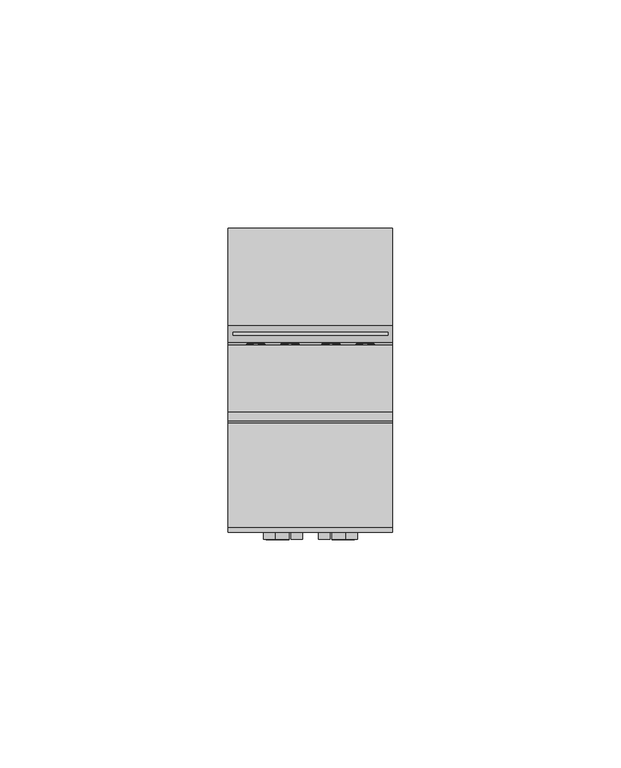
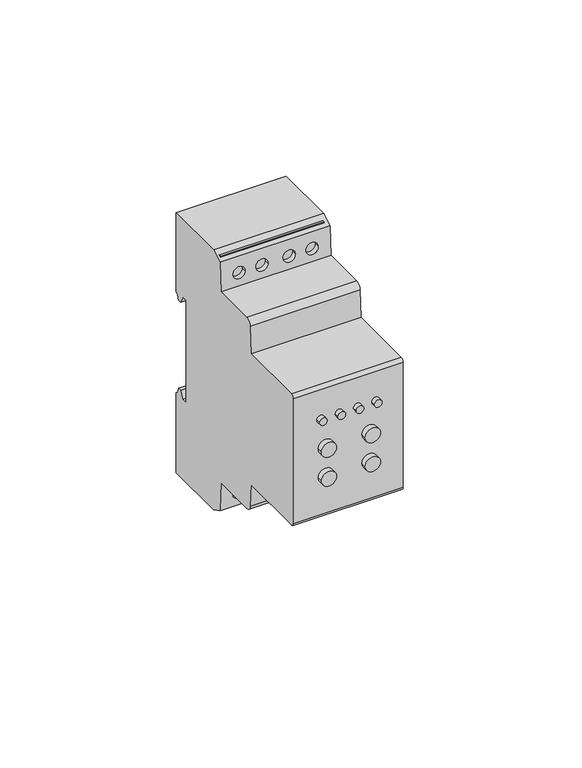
"""IFC4 building model written with IfcOpenShell, lengths in millimetres: proxy geometry, TDM_РЕЛЕ КОНТРОЛЯ НАПРЯЖЕНИЯ СЕРИИ РН 02_04_05_08_10_11 : РН 04-3х400/230 В."""

from ifc_helpers import new_model, si_unit, point, frame, frame_2d, origin, place, context, project, spatial, polyline, circle_curve, ellipse_curve, trimmed, segment, composite_curve, outline, extrude, source, transform, mapped, element, save
from ifc_brep_helpers import plane_surface, cylinder_surface, revolved_surface, advanced_brep


def electrical_equipment_52fcec72(model_context):
    return source(origin(), model_context, "Body", "SolidModel", [
        extrude(outline(composite_curve([segment(trimmed(circle_curve(frame_2d((10.7391856, -3.0)), 1.25), [point((10.7391856, -4.25))], [point((10.7391856, -1.75))], False, "CARTESIAN"), True, "CONTINUOUS"), segment(trimmed(circle_curve(frame_2d((10.7391856, -3.0)), 1.25), [point((10.7391856, -1.75))], [point((10.7391856, -4.25))], False, "CARTESIAN"), True, "CONTINUOUS")], self_intersect=False)), frame((0.0, -30.5593993, 0.0), z_axis=(0.0, 1.0, 0.0), x_axis=(0.0, 0.0, 1.0)), (0.0, 0.0, 1.0), 1.5593993),
        extrude(outline(composite_curve([segment(trimmed(circle_curve(frame_2d((10.7391856, -9.0)), 1.25), [point((10.7391856, -10.25))], [point((10.7391856, -7.75))], False, "CARTESIAN"), True, "CONTINUOUS"), segment(trimmed(circle_curve(frame_2d((10.7391856, -9.0)), 1.25), [point((10.7391856, -7.75))], [point((10.7391856, -10.25))], False, "CARTESIAN"), True, "CONTINUOUS")], self_intersect=False)), frame((0.0, -30.5593993, 0.0), z_axis=(0.0, 1.0, 0.0), x_axis=(0.0, 0.0, 1.0)), (0.0, 0.0, 1.0), 1.5593993),
        extrude(outline(composite_curve([segment(trimmed(circle_curve(frame_2d((10.7391856, 3.0)), 1.25), [point((10.7391856, 4.25))], [point((10.7391856, 1.75))], False, "CARTESIAN"), True, "CONTINUOUS"), segment(trimmed(circle_curve(frame_2d((10.7391856, 3.0)), 1.25), [point((10.7391856, 1.75))], [point((10.7391856, 4.25))], False, "CARTESIAN"), True, "CONTINUOUS")], self_intersect=False)), frame((0.0, -30.5593993, 0.0), z_axis=(0.0, 1.0, 0.0), x_axis=(0.0, 0.0, 1.0)), (0.0, 0.0, 1.0), 1.5593993),
        extrude(outline(composite_curve([segment(trimmed(circle_curve(frame_2d((10.7391856, 9.0)), 1.25), [point((10.7391856, 10.25))], [point((10.7391856, 7.75))], False, "CARTESIAN"), True, "CONTINUOUS"), segment(trimmed(circle_curve(frame_2d((10.7391856, 9.0)), 1.25), [point((10.7391856, 7.75))], [point((10.7391856, 10.25))], False, "CARTESIAN"), True, "CONTINUOUS")], self_intersect=False)), frame((0.0, -30.5593993, 0.0), z_axis=(0.0, 1.0, 0.0), x_axis=(0.0, 0.0, 1.0)), (0.0, 0.0, 1.0), 1.5593993),
        extrude(outline(composite_curve([segment(trimmed(circle_curve(frame_2d((0.3743959, -7.1875)), 2.5), [point((0.3743959, -9.6875))], [point((0.3743959, -4.6875))], False, "CARTESIAN"), True, "CONTINUOUS"), segment(trimmed(circle_curve(frame_2d((0.3743959, -7.1875)), 2.5), [point((0.3743959, -4.6875))], [point((0.3743959, -9.6875))], False, "CARTESIAN"), True, "CONTINUOUS")], self_intersect=False)), frame((0.0, -30.5593993, 0.0), z_axis=(0.0, 1.0, 0.0), x_axis=(0.0, 0.0, 1.0)), (0.0, 0.0, 1.0), 3.0593993),
        extrude(outline(composite_curve([segment(trimmed(circle_curve(frame_2d((-9.6256041, -7.1875)), 2.5), [point((-9.6256041, -9.6875))], [point((-9.6256041, -4.6875))], False, "CARTESIAN"), True, "CONTINUOUS"), segment(trimmed(circle_curve(frame_2d((-9.6256041, -7.1875)), 2.5), [point((-9.6256041, -4.6875))], [point((-9.6256041, -9.6875))], False, "CARTESIAN"), True, "CONTINUOUS")], self_intersect=False)), frame((0.0, -30.5593993, 0.0), z_axis=(0.0, 1.0, 0.0), x_axis=(0.0, 0.0, 1.0)), (0.0, 0.0, 1.0), 3.0593993),
        extrude(outline(composite_curve([segment(trimmed(circle_curve(frame_2d((0.3743959, 7.1875)), 2.5), [point((0.3743959, 9.6875))], [point((0.3743959, 4.6875))], False, "CARTESIAN"), True, "CONTINUOUS"), segment(trimmed(circle_curve(frame_2d((0.3743959, 7.1875)), 2.5), [point((0.3743959, 4.6875))], [point((0.3743959, 9.6875))], False, "CARTESIAN"), True, "CONTINUOUS")], self_intersect=False)), frame((0.0, -30.5593993, 0.0), z_axis=(0.0, 1.0, 0.0), x_axis=(0.0, 0.0, 1.0)), (0.0, 0.0, 1.0), 3.0593993),
        extrude(outline(composite_curve([segment(trimmed(circle_curve(frame_2d((-9.6256041, 7.1875)), 2.5), [point((-9.6256041, 9.6875))], [point((-9.6256041, 4.6875))], False, "CARTESIAN"), True, "CONTINUOUS"), segment(trimmed(circle_curve(frame_2d((-9.6256041, 7.1875)), 2.5), [point((-9.6256041, 4.6875))], [point((-9.6256041, 9.6875))], False, "CARTESIAN"), True, "CONTINUOUS")], self_intersect=False)), frame((0.0, -30.5593993, 0.0), z_axis=(0.0, 1.0, 0.0), x_axis=(0.0, 0.0, 1.0)), (0.0, 0.0, 1.0), 3.0593993),
        extrude(outline(polyline([(17.0, 16.6821204), (17.0, 14.1138713), (-17.0, 14.1138713), (-17.0, 16.6821204), (17.0, 16.6821204)])), frame((0.0, 0.0, -44.0625), z_axis=(0.0, 0.0, 1.0), x_axis=(1.0, 0.0, 0.0)), (0.0, 0.0, 1.0), 87.8126081),
        advanced_brep(
        [(18.0, 31.7632568, 18.2057143), (18.0, 33.4745816, 18.2057143), (18.0, 35.0790621, 15.4266726), (18.0, 36.2042493, 15.4266726), (18.0, 36.5256071, 17.2491835), (18.0, 37.5, 17.8117495), (18.0, 37.5, 45.0), (18.0, 16.2660628, 45.0), (18.0, 12.5, 43.0), (18.0, 11.9790691, 33.0600462), (18.0, -2.6020709, 33.0600462), (18.0, -4.5993299, 31.1647181), (18.0, -5.0796325, 22.0), (18.0, -27.8777313, 22.0), (18.0, -29.0, 20.8777313), (18.0, -29.0, -22.3875602), (18.0, -27.8875602, -23.5), (18.0, -5.0010208, -23.5), (18.0, -4.5993299, -31.1647181), (18.0, -2.6020709, -33.0600462), (18.0, 11.9790691, -33.0600462), (18.0, 12.5, -43.0), (18.0, 16.2660628, -45.0), (18.0, 37.5, -45.0), (18.0, 37.5, -17.4003208), (18.0, 36.5256071, -16.8377548), (18.0, 36.2042493, -15.0152439), (18.0, 35.0790621, -15.0152439), (18.0, 33.7632568, -17.2942857), (18.0, 31.7632568, -17.2942857), (-18.0, 31.7632568, 18.2057143), (-18.0, 31.7632568, -17.2942857), (-18.0, 33.7632568, -17.2942857), (-18.0, 35.0790621, -15.0152439), (-18.0, 36.2042493, -15.0152439), (-18.0, 36.5256071, -16.8377548), (-18.0, 37.5, -17.4003208), (-18.0, 37.5, -45.0), (-18.0, 16.2660628, -45.0), (-18.0, 12.5, -43.0), (-18.0, 11.9790691, -33.0600462), (-18.0, -2.6020709, -33.0600462), (-18.0, -4.5993299, -31.1647181), (-18.0, -5.0010208, -23.5), (-18.0, -27.8875602, -23.5), (-18.0, -29.0, -22.3875602), (-18.0, -29.0, 20.8777313), (-18.0, -27.8777313, 22.0), (-18.0, -5.0796325, 22.0), (-18.0, -4.5993299, 31.1647181), (-18.0, -2.6020709, 33.0600462), (-18.0, 11.9790691, 33.0600462), (-18.0, 12.5, 43.0), (-18.0, 16.2660628, 45.0), (-18.0, 37.5, 45.0), (-18.0, 37.5, 17.8117495), (-18.0, 36.5256071, 17.2491835), (-18.0, 36.2042493, 15.4266726), (-18.0, 35.0790621, 15.4266726), (-18.0, 33.4745816, 18.2057143), (-6.4760987, 12.2085347, 37.4385116), (-2.4760987, 12.2085347, 37.4385116), (-13.9760987, 12.2085347, 37.4385116), (-9.9760987, 12.2085347, 37.4385116), (6.4760987, 12.2085347, 37.4385116), (2.4760987, 12.2085347, 37.4385116), (13.9760987, 12.2085347, 37.4385116), (9.9760987, 12.2085347, 37.4385116), (-6.4760987, 12.2740445, -38.6885116), (-2.4760987, 12.2740445, -38.6885116), (-13.9760987, 12.2740445, -38.6885116), (-9.9760987, 12.2740445, -38.6885116), (6.4760987, 12.2740445, -38.6885116), (2.4760987, 12.2740445, -38.6885116), (13.9760987, 12.2740445, -38.6885116), (9.9760987, 12.2740445, -38.6885116), (-2.4760987, 15.2465164, -38.6885116), (-6.4760987, 15.2465164, -38.6885116), (-2.4760987, 15.2465164, 37.4385116), (-6.4760987, 15.2465164, 37.4385116), (-9.9760987, 15.2465164, -38.6885116), (-13.9760987, 15.2465164, -38.6885116), (-9.9760987, 15.2465164, 37.4385116), (-13.9760987, 15.2465164, 37.4385116), (2.4760987, 15.2465164, -38.6885116), (6.4760987, 15.2465164, -38.6885116), (2.4760987, 15.2465164, 37.4385116), (6.4760987, 15.2465164, 37.4385116), (9.9760987, 15.2465164, -38.6885116), (13.9760987, 15.2465164, -38.6885116), (9.9760987, 15.2465164, 37.4385116), (13.9760987, 15.2465164, 37.4385116)],
        [
            (0, 1),
            (1, 2),
            (2, 3),
            (3, 4),
            (4, 5),
            (5, 6),
            (6, 7),
            (7, 8),
            (8, 9),
            (9, 10),
            (10, 11, circle_curve(frame((18.0, -2.6020709, 31.0600462), z_axis=(1.0, 0.0, 0.0), x_axis=(0.0, -1.0, 0.0)), 2.0)),
            (11, 12),
            (12, 13),
            (13, 14, circle_curve(frame((18.0, -27.8777313, 20.8777313), z_axis=(1.0, 0.0, 0.0), x_axis=(0.0, -1.0, 0.0)), 1.1222687)),
            (14, 15),
            (15, 16, circle_curve(frame((18.0, -27.8875602, -22.3875602), z_axis=(1.0, 0.0, 0.0), x_axis=(0.0, -1.0, 0.0)), 1.1124398)),
            (16, 17),
            (17, 18),
            (18, 19, circle_curve(frame((18.0, -2.6020709, -31.0600462), z_axis=(1.0, 0.0, 0.0), x_axis=(0.0, -1.0, 0.0)), 2.0)),
            (19, 20),
            (20, 21),
            (21, 22),
            (22, 23),
            (23, 24),
            (24, 25),
            (25, 26),
            (26, 27),
            (27, 28),
            (28, 29),
            (29, 0),
            (30, 31),
            (31, 32),
            (32, 33),
            (33, 34),
            (34, 35),
            (35, 36),
            (36, 37),
            (37, 38),
            (38, 39),
            (39, 40),
            (40, 41),
            (41, 42, circle_curve(frame((-18.0, -2.6020709, -31.0600462), z_axis=(-1.0, 0.0, 0.0), x_axis=(0.0, -1.0, 0.0)), 2.0)),
            (42, 43),
            (43, 44),
            (44, 45, circle_curve(frame((-18.0, -27.8875602, -22.3875602), z_axis=(-1.0, 0.0, 0.0), x_axis=(0.0, -1.0, 0.0)), 1.1124398)),
            (45, 46),
            (46, 47, circle_curve(frame((-18.0, -27.8777313, 20.8777313), z_axis=(-1.0, 0.0, 0.0), x_axis=(0.0, -1.0, 0.0)), 1.1222687)),
            (47, 48),
            (48, 49),
            (49, 50, circle_curve(frame((-18.0, -2.6020709, 31.0600462), z_axis=(-1.0, 0.0, 0.0), x_axis=(0.0, -1.0, 0.0)), 2.0)),
            (50, 51),
            (51, 52),
            (52, 53),
            (53, 54),
            (54, 55),
            (55, 56),
            (56, 57),
            (57, 58),
            (58, 59),
            (59, 30),
            (0, 30),
            (59, 1),
            (58, 2),
            (57, 3),
            (56, 4),
            (55, 5),
            (54, 6),
            (53, 7),
            (8, 52),
            (51, 9),
            (60, 61, ellipse_curve(frame((-4.4760987, 12.2085347, 37.4385116), z_axis=(0.0, 0.9986295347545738, -0.05233595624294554), x_axis=(0.0, -0.052335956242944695, -0.9986295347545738)), 2.0027447, 2.0)),
            (61, 60, ellipse_curve(frame((-4.4760987, 12.2085347, 37.4385116), z_axis=(0.0, 0.9986295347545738, -0.05233595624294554), x_axis=(0.0, -0.052335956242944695, -0.9986295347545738)), 2.0027447, 2.0)),
            (62, 63, ellipse_curve(frame((-11.9760987, 12.2085347, 37.4385116), z_axis=(0.0, 0.9986295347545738, -0.05233595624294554), x_axis=(0.0, -0.052335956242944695, -0.9986295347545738)), 2.0027447, 2.0)),
            (63, 62, ellipse_curve(frame((-11.9760987, 12.2085347, 37.4385116), z_axis=(0.0, 0.9986295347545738, -0.05233595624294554), x_axis=(0.0, -0.052335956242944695, -0.9986295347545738)), 2.0027447, 2.0)),
            (64, 65, ellipse_curve(frame((4.4760987, 12.2085347, 37.4385116), z_axis=(0.0, 0.9986295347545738, -0.05233595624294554), x_axis=(0.0, -0.052335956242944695, -0.9986295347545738)), 2.0027447, 2.0)),
            (65, 64, ellipse_curve(frame((4.4760987, 12.2085347, 37.4385116), z_axis=(0.0, 0.9986295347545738, -0.05233595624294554), x_axis=(0.0, -0.052335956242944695, -0.9986295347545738)), 2.0027447, 2.0)),
            (66, 67, ellipse_curve(frame((11.9760987, 12.2085347, 37.4385116), z_axis=(0.0, 0.9986295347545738, -0.05233595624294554), x_axis=(0.0, -0.052335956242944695, -0.9986295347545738)), 2.0027447, 2.0)),
            (67, 66, ellipse_curve(frame((11.9760987, 12.2085347, 37.4385116), z_axis=(0.0, 0.9986295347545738, -0.05233595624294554), x_axis=(0.0, -0.052335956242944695, -0.9986295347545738)), 2.0027447, 2.0)),
            (50, 10),
            (49, 11),
            (48, 12),
            (47, 13),
            (46, 14),
            (45, 15),
            (16, 44),
            (43, 17),
            (42, 18),
            (41, 19),
            (40, 20),
            (39, 21),
            (68, 69, ellipse_curve(frame((-4.4760987, 12.2740445, -38.6885116), z_axis=(0.0, 0.9986295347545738, 0.05233595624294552), x_axis=(0.0, -0.05233595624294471, 0.9986295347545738)), 2.0027447, 2.0)),
            (69, 68, ellipse_curve(frame((-4.4760987, 12.2740445, -38.6885116), z_axis=(0.0, 0.9986295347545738, 0.05233595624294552), x_axis=(0.0, -0.05233595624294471, 0.9986295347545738)), 2.0027447, 2.0)),
            (70, 71, ellipse_curve(frame((-11.9760987, 12.2740445, -38.6885116), z_axis=(0.0, 0.9986295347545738, 0.05233595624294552), x_axis=(0.0, -0.05233595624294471, 0.9986295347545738)), 2.0027447, 2.0)),
            (71, 70, ellipse_curve(frame((-11.9760987, 12.2740445, -38.6885116), z_axis=(0.0, 0.9986295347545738, 0.05233595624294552), x_axis=(0.0, -0.05233595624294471, 0.9986295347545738)), 2.0027447, 2.0)),
            (72, 73, ellipse_curve(frame((4.4760987, 12.2740445, -38.6885116), z_axis=(0.0, 0.9986295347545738, 0.05233595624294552), x_axis=(0.0, -0.05233595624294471, 0.9986295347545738)), 2.0027447, 2.0)),
            (73, 72, ellipse_curve(frame((4.4760987, 12.2740445, -38.6885116), z_axis=(0.0, 0.9986295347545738, 0.05233595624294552), x_axis=(0.0, -0.05233595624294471, 0.9986295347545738)), 2.0027447, 2.0)),
            (74, 75, ellipse_curve(frame((11.9760987, 12.2740445, -38.6885116), z_axis=(0.0, 0.9986295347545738, 0.05233595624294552), x_axis=(0.0, -0.05233595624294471, 0.9986295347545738)), 2.0027447, 2.0)),
            (75, 74, ellipse_curve(frame((11.9760987, 12.2740445, -38.6885116), z_axis=(0.0, 0.9986295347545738, 0.05233595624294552), x_axis=(0.0, -0.05233595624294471, 0.9986295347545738)), 2.0027447, 2.0)),
            (22, 38),
            (37, 23),
            (36, 24),
            (35, 25),
            (34, 26),
            (33, 27),
            (32, 28),
            (31, 29),
            (76, 77, circle_curve(frame((-4.4760987, 15.2465164, -38.6885116), z_axis=(0.0, -1.0, 0.0), x_axis=(-1.0, 0.0, 0.0)), 2.0)),
            (77, 76, circle_curve(frame((-4.4760987, 15.2465164, -38.6885116), z_axis=(0.0, -1.0, 0.0), x_axis=(-1.0, 0.0, 0.0)), 2.0)),
            (78, 79, circle_curve(frame((-4.4760987, 15.2465164, 37.4385116), z_axis=(0.0, -1.0, 0.0), x_axis=(-1.0, 0.0, 0.0)), 2.0)),
            (79, 78, circle_curve(frame((-4.4760987, 15.2465164, 37.4385116), z_axis=(0.0, -1.0, 0.0), x_axis=(-1.0, 0.0, 0.0)), 2.0)),
            (80, 81, circle_curve(frame((-11.9760987, 15.2465164, -38.6885116), z_axis=(0.0, -1.0, 0.0), x_axis=(-1.0, 0.0, 0.0)), 2.0)),
            (81, 80, circle_curve(frame((-11.9760987, 15.2465164, -38.6885116), z_axis=(0.0, -1.0, 0.0), x_axis=(-1.0, 0.0, 0.0)), 2.0)),
            (82, 83, circle_curve(frame((-11.9760987, 15.2465164, 37.4385116), z_axis=(0.0, -1.0, 0.0), x_axis=(-1.0, 0.0, 0.0)), 2.0)),
            (83, 82, circle_curve(frame((-11.9760987, 15.2465164, 37.4385116), z_axis=(0.0, -1.0, 0.0), x_axis=(-1.0, 0.0, 0.0)), 2.0)),
            (84, 85, circle_curve(frame((4.4760987, 15.2465164, -38.6885116), z_axis=(0.0, -1.0, 0.0), x_axis=(1.0, 0.0, 0.0)), 2.0)),
            (85, 84, circle_curve(frame((4.4760987, 15.2465164, -38.6885116), z_axis=(0.0, -1.0, 0.0), x_axis=(1.0, 0.0, 0.0)), 2.0)),
            (86, 87, circle_curve(frame((4.4760987, 15.2465164, 37.4385116), z_axis=(0.0, -1.0, 0.0), x_axis=(1.0, 0.0, 0.0)), 2.0)),
            (87, 86, circle_curve(frame((4.4760987, 15.2465164, 37.4385116), z_axis=(0.0, -1.0, 0.0), x_axis=(1.0, 0.0, 0.0)), 2.0)),
            (88, 89, circle_curve(frame((11.9760987, 15.2465164, -38.6885116), z_axis=(0.0, -1.0, 0.0), x_axis=(1.0, 0.0, 0.0)), 2.0)),
            (89, 88, circle_curve(frame((11.9760987, 15.2465164, -38.6885116), z_axis=(0.0, -1.0, 0.0), x_axis=(1.0, 0.0, 0.0)), 2.0)),
            (90, 91, circle_curve(frame((11.9760987, 15.2465164, 37.4385116), z_axis=(0.0, -1.0, 0.0), x_axis=(1.0, 0.0, 0.0)), 2.0)),
            (91, 90, circle_curve(frame((11.9760987, 15.2465164, 37.4385116), z_axis=(0.0, -1.0, 0.0), x_axis=(1.0, 0.0, 0.0)), 2.0)),
            (76, 69),
            (68, 77),
            (78, 61),
            (60, 79),
            (80, 71),
            (70, 81),
            (82, 63),
            (62, 83),
            (84, 73),
            (72, 85),
            (86, 65),
            (64, 87),
            (88, 75),
            (74, 89),
            (90, 67),
            (66, 91),
        ],
        [
            plane_surface(frame((18.0, 31.7632568, 18.2057143), z_axis=(1.0, 0.0, 0.0), x_axis=(0.0, 1.0, 0.0))),
            plane_surface(frame((-18.0, 31.7632568, 18.2057143), z_axis=(-1.0, 0.0, 0.0), x_axis=(0.0, -1.0, 0.0))),
            plane_surface(frame((18.0, 31.7632568, 18.2057143), z_axis=(0.0, 0.0, -1.0), x_axis=(-1.0, 0.0, 0.0))),
            plane_surface(frame((18.0, 33.4745816, 18.2057143), z_axis=(0.0, -0.8660254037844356, -0.5000000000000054), x_axis=(-1.0, 0.0, 0.0))),
            plane_surface(frame((18.0, 35.0790621, 15.4266726), z_axis=(0.0, 0.0, -1.0), x_axis=(-1.0, 0.0, 0.0))),
            plane_surface(frame((18.0, 36.2042493, 15.4266726), z_axis=(0.0, 0.984807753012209, -0.17364817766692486), x_axis=(-1.0, 0.0, 0.0))),
            plane_surface(frame((18.0, 36.5256071, 17.2491835), z_axis=(0.0, 0.5000000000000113, -0.8660254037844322), x_axis=(-1.0, 0.0, 0.0))),
            plane_surface(frame((18.0, 37.5, 17.8117495), z_axis=(0.0, 1.0, 0.0), x_axis=(-1.0, 0.0, 0.0))),
            plane_surface(frame((18.0, 37.5, 45.0), z_axis=(0.0, 0.0, 1.0), x_axis=(-1.0, 0.0, 0.0))),
            plane_surface(frame((18.0, 12.5, 43.0), z_axis=(0.0, -0.9986295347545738, 0.05233595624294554), x_axis=(-1.0, 0.0, 0.0))),
            plane_surface(frame((18.0, 11.9790691, 33.0600462), z_axis=(0.0, 0.0, 1.0), x_axis=(-1.0, 0.0, 0.0))),
            cylinder_surface(frame((-18.0, -2.6020709, 31.0600462), z_axis=(1.0, 0.0, 0.0), x_axis=(0.0, -1.0, 0.0)), 2.0),
            plane_surface(frame((18.0, -4.5993299, 31.1647181), z_axis=(0.0, -0.9986295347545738, 0.052335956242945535), x_axis=(-1.0, 0.0, 0.0))),
            plane_surface(frame((18.0, -5.0796325, 22.0), z_axis=(0.0, 0.0, 1.0), x_axis=(-1.0, 0.0, 0.0))),
            cylinder_surface(frame((-18.0, -27.8777313, 20.8777313), z_axis=(1.0, 0.0, 0.0), x_axis=(0.0, -1.0, 0.0)), 1.1222687),
            plane_surface(frame((18.0, -29.0, 20.8777313), z_axis=(0.0, -1.0, 0.0), x_axis=(-1.0, 0.0, 0.0))),
            plane_surface(frame((18.0, -27.8875602, -23.5), z_axis=(0.0, 0.0, -1.0), x_axis=(-1.0, 0.0, 0.0))),
            plane_surface(frame((18.0, -5.0010208, -23.5), z_axis=(0.0, -0.9986295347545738, -0.05233595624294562), x_axis=(-1.0, 0.0, 0.0))),
            cylinder_surface(frame((-18.0, -2.6020709, -31.0600462), z_axis=(1.0, 0.0, 0.0), x_axis=(0.0, -1.0, 0.0)), 2.0),
            plane_surface(frame((18.0, -2.6020709, -33.0600462), z_axis=(0.0, 0.0, -1.0), x_axis=(-1.0, 0.0, 0.0))),
            plane_surface(frame((18.0, 11.9790691, -33.0600462), z_axis=(0.0, -0.9986295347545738, -0.05233595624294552), x_axis=(-1.0, 0.0, 0.0))),
            plane_surface(frame((18.0, 16.2660628, -45.0), z_axis=(0.0, 0.0, -1.0), x_axis=(-1.0, 0.0, 0.0))),
            plane_surface(frame((18.0, 37.5, -45.0), z_axis=(0.0, 1.0, 0.0), x_axis=(-1.0, 0.0, 0.0))),
            plane_surface(frame((18.0, 37.5, -17.4003208), z_axis=(0.0, 0.5000000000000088, 0.8660254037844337), x_axis=(-1.0, 0.0, 0.0))),
            plane_surface(frame((18.0, 36.5256071, -16.8377548), z_axis=(0.0, 0.9848077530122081, 0.17364817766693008), x_axis=(-1.0, 0.0, 0.0))),
            plane_surface(frame((18.0, 36.2042493, -15.0152439), z_axis=(0.0, 0.0, 1.0), x_axis=(-1.0, 0.0, 0.0))),
            plane_surface(frame((18.0, 35.0790621, -15.0152439), z_axis=(0.0, -0.8660254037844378, 0.5000000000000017), x_axis=(-1.0, 0.0, 0.0))),
            plane_surface(frame((18.0, 33.7632568, -17.2942857), z_axis=(0.0, 0.0, 1.0), x_axis=(-1.0, 0.0, 0.0))),
            plane_surface(frame((18.0, 31.7632568, -17.2942857), z_axis=(0.0, 1.0, 0.0), x_axis=(-1.0, 0.0, 0.0))),
            cylinder_surface(frame((-18.0, -27.8875602, -22.3875602), z_axis=(1.0, 0.0, 0.0), x_axis=(0.0, -1.0, 0.0)), 1.1124398),
            plane_surface(frame((-6.4760987, 15.2465164, -38.6885116), z_axis=(0.0, -1.0, 0.0), x_axis=(0.0, 0.0, 1.0))),
            revolved_surface(polyline([(-6.4760987, 12.16922894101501, -38.6885116), (-6.4760987, 15.2465164, -38.6885116)]), (-4.4760987, 15.2465164, -38.6885116), (0.0, -1.0, 0.0)),
            revolved_surface(polyline([(-6.4760987, 12.10371914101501, 37.4385116), (-6.4760987, 15.2465164, 37.4385116)]), (-4.4760987, 0.0, 37.4385116), (0.0, -1.0, 0.0)),
            plane_surface(frame((18.0, 16.2660628, 45.0), z_axis=(0.0, -0.4690233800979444, 0.8831857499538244), x_axis=(-1.0, 0.0, 0.0))),
            plane_surface(frame((18.0, 12.5, -43.0), z_axis=(0.0, -0.4690233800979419, -0.8831857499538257), x_axis=(-1.0, 0.0, 0.0))),
            revolved_surface(polyline([(-13.9760987, 12.16922894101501, -38.6885116), (-13.9760987, 15.2465164, -38.6885116)]), (-11.9760987, 0.0, -38.6885116), (0.0, -1.0, 0.0)),
            revolved_surface(polyline([(-13.9760987, 12.10371914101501, 37.4385116), (-13.9760987, 15.2465164, 37.4385116)]), (-11.9760987, 0.0, 37.4385116), (0.0, -1.0, 0.0)),
            revolved_surface(polyline([(6.4760987, 12.16922894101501, -38.6885116), (6.4760987, 15.2465164, -38.6885116)]), (4.4760987, 0.0, -38.6885116), (0.0, -1.0, 0.0)),
            revolved_surface(polyline([(6.4760987, 12.10371914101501, 37.4385116), (6.4760987, 15.2465164, 37.4385116)]), (4.4760987, 0.0, 37.4385116), (0.0, -1.0, 0.0)),
            revolved_surface(polyline([(13.9760987, 12.16922894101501, -38.6885116), (13.9760987, 15.2465164, -38.6885116)]), (11.9760987, 0.0, -38.6885116), (0.0, -1.0, 0.0)),
            revolved_surface(polyline([(13.9760987, 12.10371914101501, 37.4385116), (13.9760987, 15.2465164, 37.4385116)]), (11.9760987, 0.0, 37.4385116), (0.0, -1.0, 0.0)),
        ],
        [
            (0, [[1, 2, 3, 4, 5, 6, 7, 8, 9, 10, 11, 12, 13, 14, 15, 16, 17, 18, 19, 20, 21, 22, 23, 24, 25, 26, 27, 28, 29, 30]]),
            (1, [[31, 32, 33, 34, 35, 36, 37, 38, 39, 40, 41, 42, 43, 44, 45, 46, 47, 48, 49, 50, 51, 52, 53, 54, 55, 56, 57, 58, 59, 60]]),
            (2, [[-1, 61, -60, 62]]),
            (3, [[-2, -62, -59, 63]]),
            (4, [[-3, -63, -58, 64]]),
            (5, [[-4, -64, -57, 65]]),
            (6, [[-5, -65, -56, 66]]),
            (7, [[-6, -66, -55, 67]]),
            (8, [[-7, -67, -54, 68]]),
            (9, [[-9, 69, -52, 70], [71, 72], [73, 74], [75, 76], [77, 78]]),
            (10, [[-10, -70, -51, 79]]),
            (11, [[-11, -79, -50, 80]]),
            (12, [[-12, -80, -49, 81]]),
            (13, [[-13, -81, -48, 82]]),
            (14, [[-14, -82, -47, 83]]),
            (15, [[-15, -83, -46, 84]]),
            (16, [[-17, 85, -44, 86]]),
            (17, [[-18, -86, -43, 87]]),
            (18, [[-19, -87, -42, 88]]),
            (19, [[-20, -88, -41, 89]]),
            (20, [[-21, -89, -40, 90], [91, 92], [93, 94], [95, 96], [97, 98]]),
            (21, [[-23, 99, -38, 100]]),
            (22, [[-24, -100, -37, 101]]),
            (23, [[-25, -101, -36, 102]]),
            (24, [[-26, -102, -35, 103]]),
            (25, [[-27, -103, -34, 104]]),
            (26, [[-28, -104, -33, 105]]),
            (27, [[-29, -105, -32, 106]]),
            (28, [[-30, -106, -31, -61]]),
            (29, [[-16, -84, -45, -85]]),
            (30, [[107, 108]]),
            (30, [[109, 110]]),
            (30, [[111, 112]]),
            (30, [[113, 114]]),
            (30, [[115, 116]]),
            (30, [[117, 118]]),
            (30, [[119, 120]]),
            (30, [[121, 122]]),
            (31, [[-107, 123, -91, 124]]),
            (31, [[-108, -124, -92, -123]]),
            (32, [[-109, 125, -71, 126]]),
            (32, [[-110, -126, -72, -125]]),
            (33, [[-8, -68, -53, -69]]),
            (34, [[-22, -90, -39, -99]]),
            (35, [[-111, 127, -93, 128]]),
            (35, [[-112, -128, -94, -127]]),
            (36, [[-113, 129, -73, 130]]),
            (36, [[-114, -130, -74, -129]]),
            (37, [[-115, 131, -95, 132]]),
            (37, [[-116, -132, -96, -131]]),
            (38, [[-117, 133, -75, 134]]),
            (38, [[-118, -134, -76, -133]]),
            (39, [[-119, 135, -97, 136]]),
            (39, [[-120, -136, -98, -135]]),
            (40, [[-121, 137, -77, 138]]),
            (40, [[-122, -138, -78, -137]]),
        ],
    ),
    ])


if __name__ == "__main__":
    model = new_model("IFC4")
    model_context = context("Model", 3, world=origin())
    ifc_project = project(units=[si_unit("LENGTHUNIT", "METRE", prefix="MILLI")], contexts=[model_context])
    site = spatial("IfcSite", under=ifc_project)
    building = spatial("IfcBuilding", under=site)
    placement = place(None, origin())
    electrical_equipment_shape = electrical_equipment_52fcec72(model_context)
    element("IfcBuildingElementProxy", 1, Name="TDM_РЕЛЕ КОНТРОЛЯ НАПРЯЖЕНИЯ СЕРИИ РН 02_04_05_08_10_11 : РН 04-3х400/230 В", ObjectType="TDM_РЕЛЕ КОНТРОЛЯ НАПРЯЖЕНИЯ СЕРИИ РН 02_04_05_08_10_11 : РН 04-3х400/230 В", at=placement, inside=building, context=model_context, shape_type="MappedRepresentation", body=[
        mapped(electrical_equipment_shape, transform((0.0, 0.0, 0.0), x_axis=(1.0, 0.0, 0.0), y_axis=(0.0, 1.0, 0.0), z_axis=(0.0, 0.0, 1.0))),
    ])
    save(model, "model.ifc")
